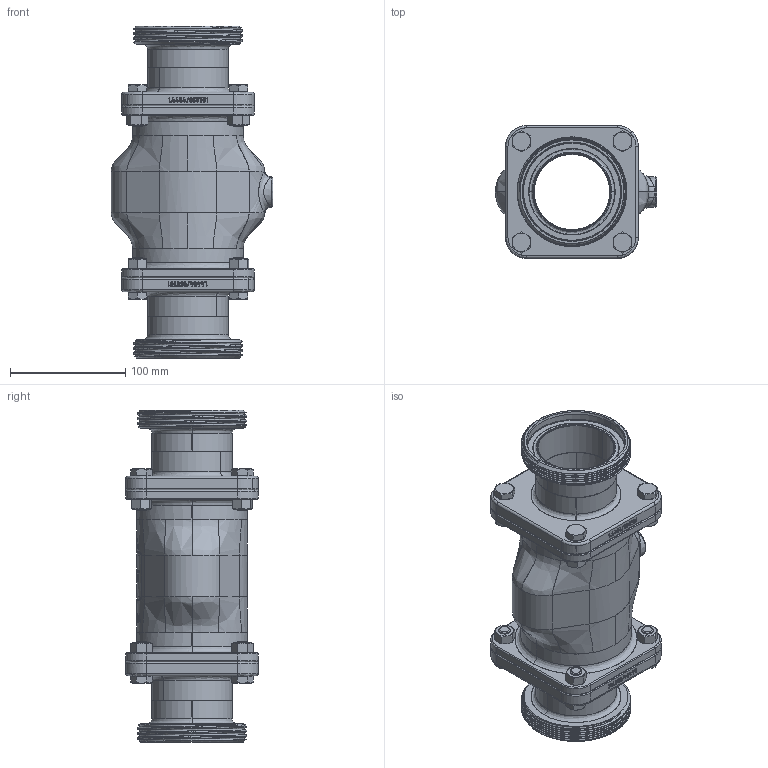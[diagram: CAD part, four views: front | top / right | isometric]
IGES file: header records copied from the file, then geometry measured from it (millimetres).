
Start section: SolidWorks IGES file using analytic representation for surfaces
Global section: file name: L:\SolidWorks_daten\Zeichnungen\AKO\Ventile\Fuer Extern\Traceparts\VMC\DN65\VMC65xx50RM50_EV.IGS; native system: SolidWorks 2014; preprocessor: SolidWorks 2014; author: j.greif; date: 141124.102049; units: millimetre
Bounding box: 140 x 115 x 288 mm (x, y, z)
Surface area: 209402.8 mm2 (no closed solid volume)
Topology: 0 solids, 0 shells, 2497 faces, 33056 edges, 33056 vertices
Faces by surface type: bspline 2037, revolution 460
